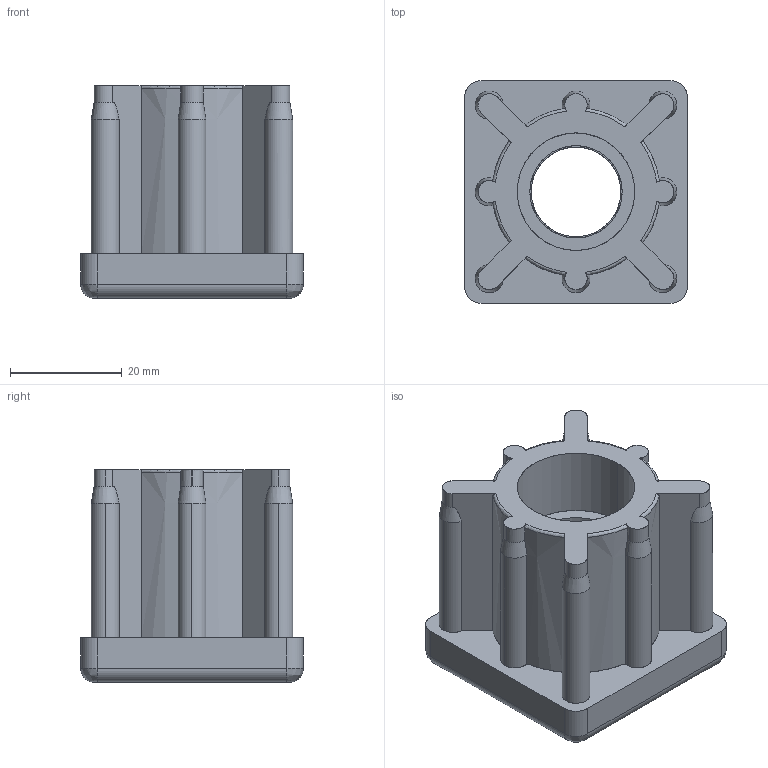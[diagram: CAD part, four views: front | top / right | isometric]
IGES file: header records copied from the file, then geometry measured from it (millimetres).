
Start section: SolidWorks IGES file using analytic representation for surfaces
Global section: file name: Y:\Tecnodin, S.L\Planos Clientes - Documentos\General\PLANOS CLIENTES\3D\-REVISAR-\CONTERAS TECOM\42006840316.IGS; native system: SolidWorks 2018; preprocessor: SolidWorks 2018; author: GerPro; date: 200226.113546; units: millimetre
Bounding box: 39.8 x 39.8 x 38 mm (x, y, z)
Surface area: 13304.6 mm2 (no closed solid volume)
Topology: 0 solids, 0 shells, 112 faces, 1368 edges, 1368 vertices
Faces by surface type: revolution 73, bspline 39
